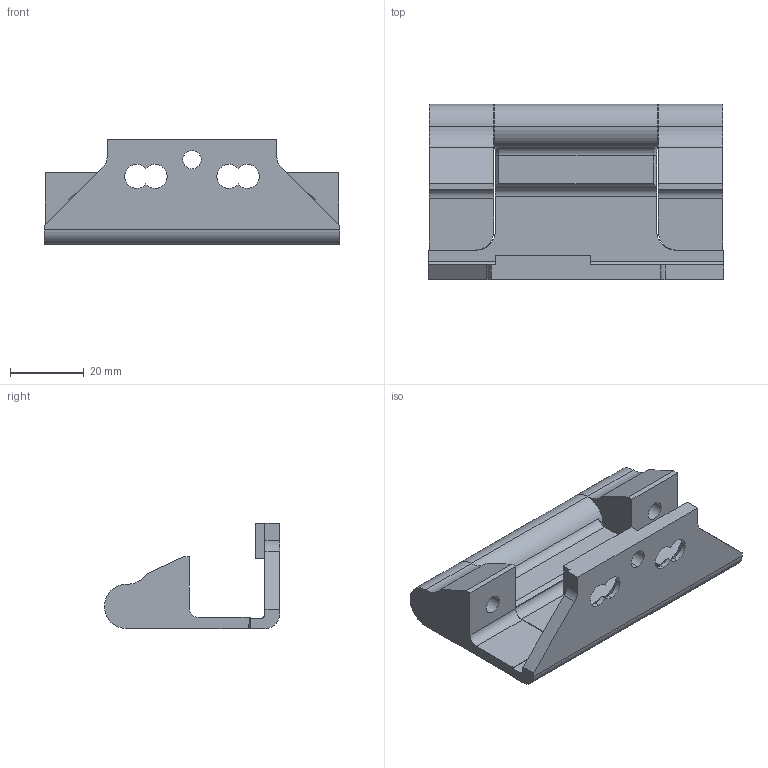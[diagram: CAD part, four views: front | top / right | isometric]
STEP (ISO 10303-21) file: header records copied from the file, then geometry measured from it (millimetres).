
FILE_DESCRIPTION (( 'STEP AP203' ), '1' );
FILE_NAME ('DHN180_V1.step', '2013-03-25T07:42:26', ( '' ), ( '' ), 'SwSTEP 2.0', 'SolidWorks 2011', '' );
FILE_SCHEMA (( 'CONFIG_CONTROL_DESIGN' ));
Length unit declared in the file: millimetre
Products named in the file (5): DHN180_V1; 7866-0108; 7846-0106-02; 7846-0106-01; 7846-0105
Assembly tree (5 placements, depth 2):
  DHN180_V1
    7866-0108  x2
    7846-0106-02
    7846-0105
    7846-0106-01
Bounding box: 80 x 47.5 x 28.5 mm (x, y, z)
Volume: 30253.3 mm3; surface area: 17369.5 mm2
Topology: 5 solids, 5 shells, 730 faces, 1636 edges, 915 vertices
Faces by surface type: plane 529, cylinder 175, cone 26
Entity records: 12127 total; most frequent: DIRECTION 2156, CARTESIAN_POINT 1985, ORIENTED_EDGE 1912, EDGE_CURVE 956, AXIS2_PLACEMENT_3D 782, VECTOR 592, LINE 592, VERTEX_POINT 547
